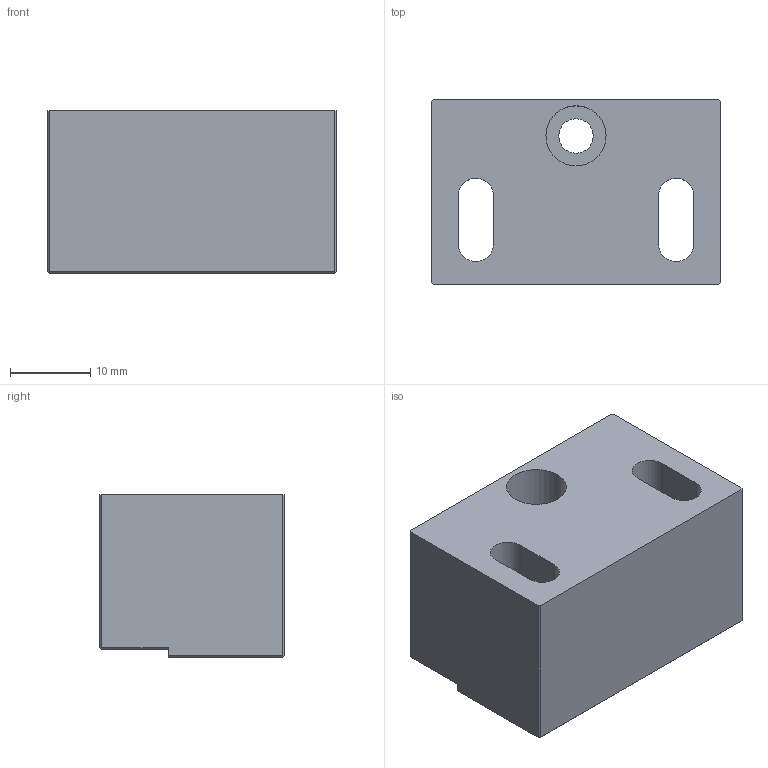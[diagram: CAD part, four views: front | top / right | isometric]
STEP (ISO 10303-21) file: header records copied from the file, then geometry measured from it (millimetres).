
FILE_DESCRIPTION(/* description */ (''),/* implementation_level */ '2;1');
FILE_NAME(/* name */ '',/* time_stamp */ '2025-12-08T17:23:06+08:00',/* author */ ('Q'),/* organization */ (''),/* preprocessor_version */ 'ST-DEVELOPER v20',/* originating_system */ 'Autodesk Inventor 2025',/* authorisation */ '');
FILE_SCHEMA (('AUTOMOTIVE_DESIGN { 1 0 10303 214 3 1 1 }'));
Length unit declared in the file: millimetre
Products named in the file (1): pbs小底座
Bounding box: 36 x 23 x 20.3 mm (x, y, z)
Volume: 12255.4 mm3; surface area: 5613.1 mm2
Topology: 1 solids, 1 shells, 41 faces, 114 edges, 76 vertices
Faces by surface type: plane 31, cylinder 10
Full cylindrical faces by diameter (mm): 4.3 x1, 7.5 x1
Entity records: 1363 total; most frequent: CARTESIAN_POINT 232, ORIENTED_EDGE 228, DIRECTION 218, EDGE_CURVE 114, LINE 94, VECTOR 94, VERTEX_POINT 76, AXIS2_PLACEMENT_3D 62
